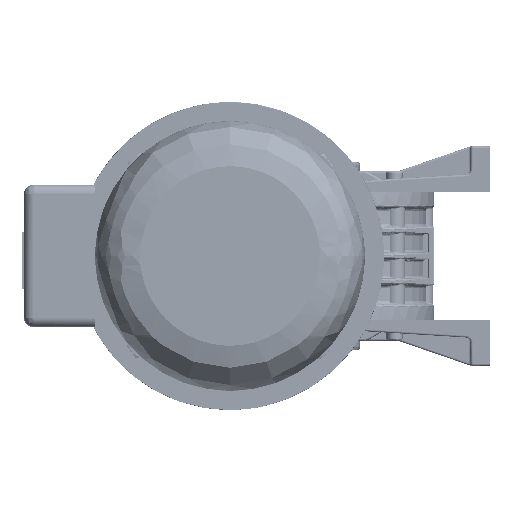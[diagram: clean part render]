
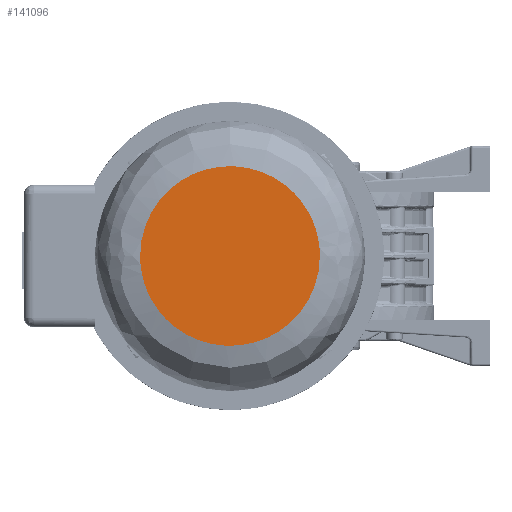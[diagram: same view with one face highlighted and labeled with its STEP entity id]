
A CAD part, left-side view. The second image highlights one B-rep face of the part: STEP entity #141096.
In plain terms, the highlighted planar face has unit normal (-1, 0, 0).
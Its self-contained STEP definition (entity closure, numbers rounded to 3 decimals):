
#57258 = CARTESIAN_POINT ( 'NONE',  ( -317., 96.667, 0. ) ) ;
#57260 = CARTESIAN_POINT ( 'NONE',  ( -317., 96.667, -93.333 ) ) ;
#57261 = CARTESIAN_POINT ( 'NONE',  ( -317., 3.333, -93.333 ) ) ;
#57262 = CARTESIAN_POINT ( 'NONE',  ( -317., 3.333, 0. ) ) ;
#57271 =( BOUNDED_CURVE ( )  B_SPLINE_CURVE ( 3, ( #57262, #57261, #57260, #57258 ),
 .UNSPECIFIED., .F., .T. ) 
 B_SPLINE_CURVE_WITH_KNOTS ( ( 4, 4 ),
 ( 0.5, 1. ),
 .UNSPECIFIED. ) 
 CURVE ( )  GEOMETRIC_REPRESENTATION_ITEM ( )  RATIONAL_B_SPLINE_CURVE ( ( 1., 0.333, 0.333, 1. ) ) 
 REPRESENTATION_ITEM ( '' )  );
#137422 = EDGE_CURVE ( 'NONE', #291013, #290965, #57271, .T. ) ;
#141046 = ORIENTED_EDGE ( 'NONE', *, *, #137422, .F. ) ;
#141096 = ADVANCED_FACE ( 'NONE', ( #275262 ), #275386, .T. ) ;
#141162 = EDGE_LOOP ( 'NONE', ( #141165, #141046 ) ) ;
#141165 = ORIENTED_EDGE ( 'NONE', *, *, #290739, .F. ) ;
#222711 = CARTESIAN_POINT ( 'NONE',  ( -317., 3.333, 0. ) ) ;
#222712 = CARTESIAN_POINT ( 'NONE',  ( -317., 3.333, 93.333 ) ) ;
#222713 = CARTESIAN_POINT ( 'NONE',  ( -317., 96.667, 93.333 ) ) ;
#222714 = CARTESIAN_POINT ( 'NONE',  ( -317., 96.667, 0. ) ) ;
#222715 =( BOUNDED_CURVE ( )  B_SPLINE_CURVE ( 3, ( #222714, #222713, #222712, #222711 ),
 .UNSPECIFIED., .F., .T. ) 
 B_SPLINE_CURVE_WITH_KNOTS ( ( 4, 4 ),
 ( 0., 0.5 ),
 .UNSPECIFIED. ) 
 CURVE ( )  GEOMETRIC_REPRESENTATION_ITEM ( )  RATIONAL_B_SPLINE_CURVE ( ( 1., 0.333, 0.333, 1. ) ) 
 REPRESENTATION_ITEM ( '' )  );
#223236 = CARTESIAN_POINT ( 'NONE',  ( -317., 96.667, 0. ) ) ;
#223310 = CARTESIAN_POINT ( 'NONE',  ( -317., 3.333, 0. ) ) ;
#275262 = FACE_OUTER_BOUND ( 'NONE', #141162, .T. ) ;
#275377 = DIRECTION ( 'NONE',  ( 0., -1., 0. ) ) ;
#275378 = DIRECTION ( 'NONE',  ( -1., 0., 0. ) ) ;
#275380 = CARTESIAN_POINT ( 'NONE',  ( -317., 50., 0. ) ) ;
#275385 = AXIS2_PLACEMENT_3D ( 'NONE', #275380, #275378, #275377 ) ;
#275386 = PLANE ( 'NONE',  #275385 ) ;
#290739 = EDGE_CURVE ( 'NONE', #290965, #291013, #222715, .T. ) ;
#290965 = VERTEX_POINT ( 'NONE', #223236 ) ;
#291013 = VERTEX_POINT ( 'NONE', #223310 ) ;
